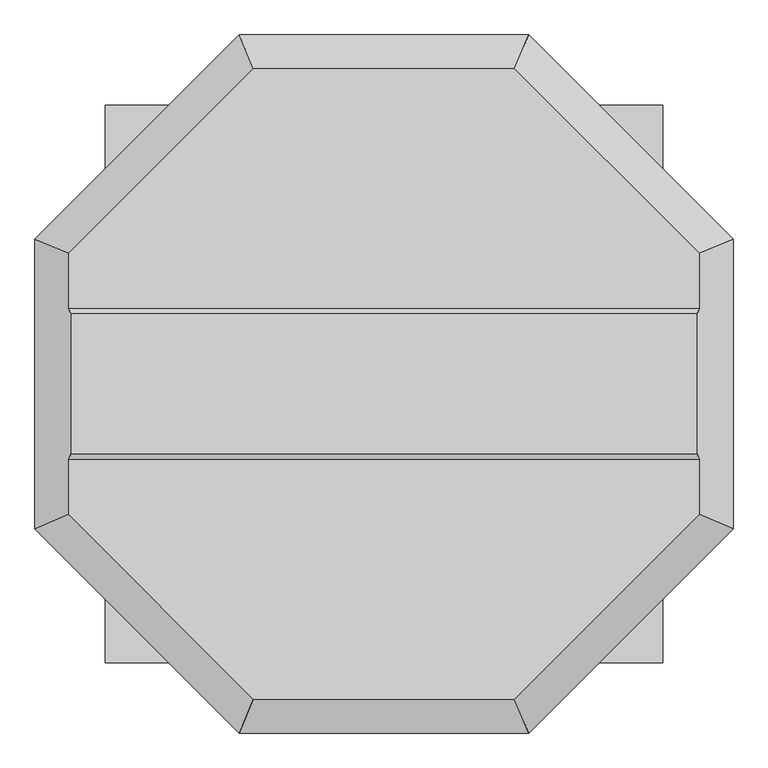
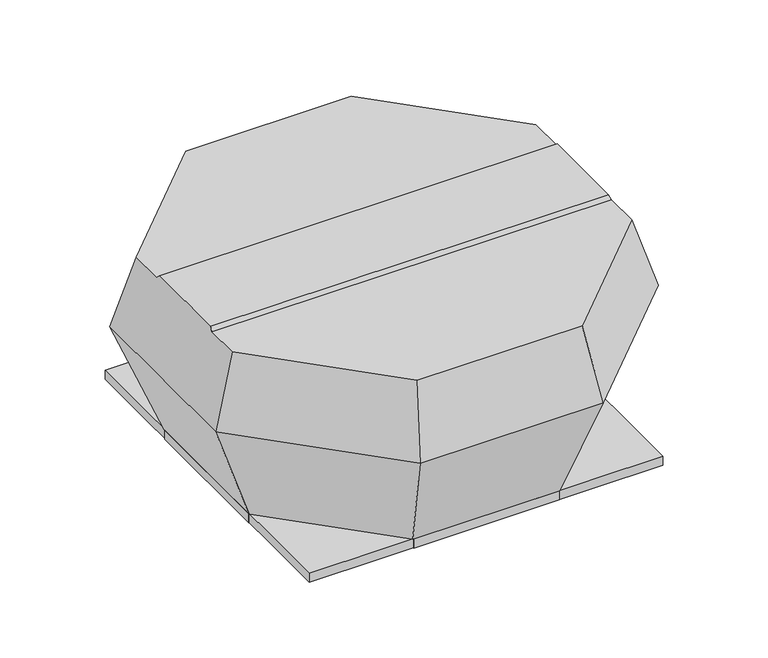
"""IFC4 building model written with IfcOpenShell, lengths in millimetres: unitary equipment geometry, VE-Wentylator-ParaForma-Harmann-VIVER-Wywiewny : 4-560/10900T."""

from ifc_helpers import new_model, si_unit, origin, place, context, project, spatial, faceted_brep, source, transform, mapped, element, save


def unitary_equipment_39375190(model_context):
    return source(origin(), model_context, "Body", "Brep", [
        faceted_brep([(523.3440313, -116.85, 497.3), (523.3440313, 116.85, 497.3), (-523.3440313, 116.85, 497.3), (-523.3440313, -116.85, 497.3), (526.0571352, 125.8, 488.3), (-526.0571352, 125.8, 488.3), (526.0571352, -125.8, 488.3), (-526.0571352, -125.8, 488.3), (217.9, -526.0571352, 488.3), (526.0571352, -217.9, 488.3), (-526.0571352, -217.9, 488.3), (-217.9, -526.0571352, 488.3), (526.0571352, 217.9, 488.3), (217.9, 526.0571352, 488.3), (-217.9, 526.0571352, 488.3), (-526.0571352, 217.9, 488.3), (241.4, -582.791154, 300.1), (582.791154, -241.4, 300.1), (582.791154, 241.4, 300.1), (241.4, 582.791154, 300.1), (-241.4, 582.791154, 300.1), (-582.791154, 241.4, 300.1), (-582.791154, -241.4, 300.1), (-241.4, -582.791154, 300.1), (193.3, -466.6674816, 1.5), (-193.3, -466.6674816, 1.5), (-466.6674816, -193.3, 1.5), (-466.6674816, 193.3, 1.5), (-193.3, 466.6674816, 1.5), (193.3, 466.6674816, 1.5), (466.6674816, 193.3, 1.5), (466.6674816, -193.3, 1.5)], [[[0, 1, 2, 3]], [[1, 4, 5, 2]], [[6, 0, 3, 7]], [[8, 9, 6, 7, 10, 11]], [[12, 13, 14, 15, 5, 4]], [[9, 8, 16, 17]], [[9, 17, 18, 12, 4, 1, 0, 6]], [[13, 12, 18, 19]], [[14, 13, 19, 20]], [[15, 14, 20, 21]], [[15, 21, 22, 10, 7, 3, 2, 5]], [[11, 10, 22, 23]], [[8, 11, 23, 16]], [[24, 25, 26, 27, 28, 29, 30, 31]], [[24, 31, 17, 16]], [[31, 30, 18, 17]], [[30, 29, 19, 18]], [[29, 28, 20, 19]], [[28, 27, 21, 20]], [[27, 26, 22, 21]], [[26, 25, 23, 22]], [[25, 24, 16, 23]]]),
        faceted_brep([(464.1, 464.1, -23.5), (464.1, 464.1, 0.0), (-464.1, 464.1, 0.0), (-464.1, 464.1, -23.5), (465.6, 465.6, 1.5), (465.6, 465.6, -23.5), (-465.6, 465.6, -23.5), (-465.6, 465.6, 1.5), (-464.1, -464.1, 0.0), (-464.1, -464.1, -23.5), (-465.6, -465.6, -23.5), (-465.6, -465.6, 1.5), (464.1, -464.1, 0.0), (464.1, -464.1, -23.5), (465.6, -465.6, -23.5), (465.6, -465.6, 1.5)], [[[0, 1, 2, 3]], [[4, 5, 6, 7]], [[3, 2, 8, 9]], [[7, 6, 10, 11]], [[9, 8, 12, 13]], [[11, 10, 14, 15]], [[13, 12, 1, 0]], [[5, 14, 10, 6], [3, 9, 13, 0]], [[15, 14, 5, 4]], [[7, 11, 15, 4]], [[1, 12, 8, 2]]]),
        faceted_brep([(-465.6, -191.6, -24.0), (-466.6, -191.6, -24.0), (-466.6, 191.6, -24.0), (-465.6, 191.6, -24.0), (-465.6, -191.6, 1.5), (-465.6, 191.6, 1.5), (-466.6, 191.6, 1.5), (-466.6, -191.6, 1.5)], [[[0, 1, 2, 3]], [[4, 5, 6, 7]], [[1, 0, 4, 7]], [[2, 1, 7, 6]], [[3, 2, 6, 5]], [[0, 3, 5, 4]]]),
        faceted_brep([(466.6, -191.6, -24.0), (465.6, -191.6, -24.0), (465.6, 191.6, -24.0), (466.6, 191.6, -24.0), (466.6, 191.6, 1.5), (465.6, 191.6, 1.5), (465.6, 5.0, 1.5), (465.6, -5.0, 1.5), (465.6, -191.6, 1.5), (466.6, -191.6, 1.5), (466.6, -5.0, 1.5), (466.6, 5.0, 1.5)], [[[0, 1, 2, 3]], [[4, 5, 6, 7, 8, 9, 10, 11]], [[1, 0, 9, 8]], [[2, 1, 8, 7, 6, 5]], [[3, 2, 5, 4]], [[0, 3, 4, 11, 10, 9]]]),
        faceted_brep([(191.6, 465.6, -24.0), (-191.6, 465.6, -24.0), (-191.6, 466.6, -24.0), (191.6, 466.6, -24.0), (191.6, 465.6, 1.5), (191.6, 466.6, 1.5), (-191.6, 466.6, 1.5), (-191.6, 465.6, 1.5)], [[[0, 1, 2, 3]], [[4, 5, 6, 7]], [[1, 0, 4, 7]], [[2, 1, 7, 6]], [[3, 2, 6, 5]], [[0, 3, 5, 4]]]),
        faceted_brep([(191.6, -466.6, -24.0), (-191.6, -466.6, -24.0), (-191.6, -465.6, -24.0), (191.6, -465.6, -24.0), (191.6, -466.6, 1.5), (191.6, -465.6, 1.5), (-191.6, -465.6, 1.5), (-191.6, -466.6, 1.5)], [[[0, 1, 2, 3]], [[4, 5, 6, 7]], [[1, 0, 4, 7]], [[2, 1, 7, 6]], [[3, 2, 6, 5]], [[0, 3, 5, 4]]]),
    ])


if __name__ == "__main__":
    model = new_model("IFC4")
    model_context = context("Model", 3, world=origin())
    ifc_project = project(units=[si_unit("LENGTHUNIT", "METRE", prefix="MILLI")], contexts=[model_context])
    site = spatial("IfcSite", under=ifc_project)
    building = spatial("IfcBuilding", under=site)
    placement = place(None, origin())
    unitary_equipment_shape = unitary_equipment_39375190(model_context)
    element("IfcUnitaryEquipment", 1, ObjectType="VE-Wentylator-ParaForma-Harmann-VIVER-Wywiewny : 4-560/10900T", at=placement, inside=building, context=model_context, shape_type="MappedRepresentation", body=[
        mapped(unitary_equipment_shape, transform((0.0, 0.0, 0.0), x_axis=(1.0, 0.0, 0.0), y_axis=(0.0, 1.0, 0.0), z_axis=(0.0, 0.0, 1.0))),
    ])
    save(model, "model.ifc")
